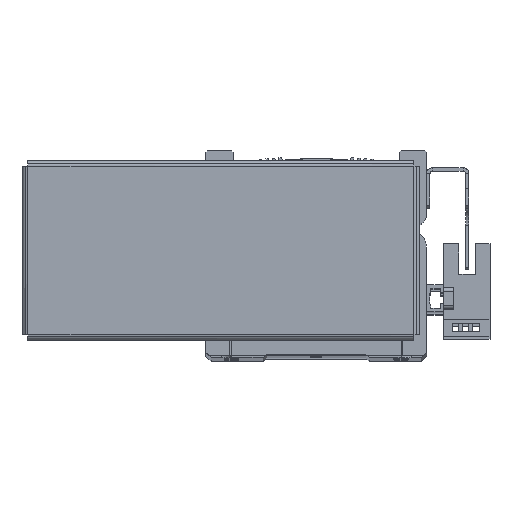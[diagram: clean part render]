
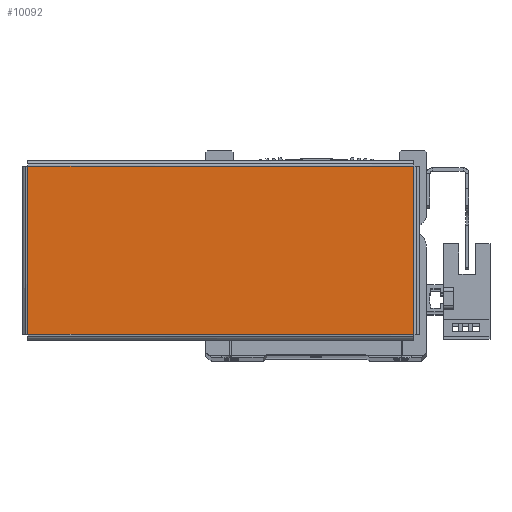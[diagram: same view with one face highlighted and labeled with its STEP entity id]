
A CAD part, top view. The second image highlights one B-rep face of the part: STEP entity #10092.
In plain terms, the highlighted planar face has unit normal (0, 0, 1) as drawn and (0, 0, -1) by its records, which use the part's own axes.
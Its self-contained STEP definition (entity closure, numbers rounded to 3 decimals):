
#3952 = AXIS2_PLACEMENT_3D ( 'NONE', #5464, #5465, #5477 ) ;
#5464 = CARTESIAN_POINT ( 'NONE',  ( 0., 0., -1. ) ) ;
#5465 = DIRECTION ( 'NONE',  ( 0., 0., 1. ) ) ;
#5475 = PLANE ( 'NONE',  #3952 ) ;
#5477 = DIRECTION ( 'NONE',  ( 1., 0., 0. ) ) ;
#10092 = ADVANCED_FACE ( 'NONE', ( #19901 ), #5475, .F. ) ;
#12429 = VERTEX_POINT ( 'NONE', #22635 ) ;
#12474 = VERTEX_POINT ( 'NONE', #22607 ) ;
#12539 = VERTEX_POINT ( 'NONE', #22691 ) ;
#12546 = VERTEX_POINT ( 'NONE', #22682 ) ;
#12711 = EDGE_LOOP ( 'NONE', ( #14493, #14580, #14477, #14514 ) ) ;
#14477 = ORIENTED_EDGE ( 'NONE', *, *, #28727, .T. ) ;
#14493 = ORIENTED_EDGE ( 'NONE', *, *, #28734, .T. ) ;
#14514 = ORIENTED_EDGE ( 'NONE', *, *, #28649, .T. ) ;
#14580 = ORIENTED_EDGE ( 'NONE', *, *, #28739, .T. ) ;
#19901 = FACE_OUTER_BOUND ( 'NONE', #12711, .T. ) ;
#22607 = CARTESIAN_POINT ( 'NONE',  ( -56.863, -24.763, -1. ) ) ;
#22635 = CARTESIAN_POINT ( 'NONE',  ( 56.863, 24.763, -1. ) ) ;
#22682 = CARTESIAN_POINT ( 'NONE',  ( -56.863, 24.763, -1. ) ) ;
#22691 = CARTESIAN_POINT ( 'NONE',  ( 56.863, -24.763, -1. ) ) ;
#28649 = EDGE_CURVE ( 'NONE', #12546, #12429, #34279, .T. ) ;
#28727 = EDGE_CURVE ( 'NONE', #12474, #12546, #34331, .T. ) ;
#28734 = EDGE_CURVE ( 'NONE', #12429, #12539, #34341, .T. ) ;
#28739 = EDGE_CURVE ( 'NONE', #12539, #12474, #34350, .T. ) ;
#34279 = LINE ( 'NONE', #35775, #34292 ) ;
#34292 = VECTOR ( 'NONE', #35811, 1000. ) ;
#34331 = LINE ( 'NONE', #35957, #34356 ) ;
#34341 = LINE ( 'NONE', #35959, #34342 ) ;
#34342 = VECTOR ( 'NONE', #35961, 1000. ) ;
#34345 = VECTOR ( 'NONE', #36011, 1000. ) ;
#34350 = LINE ( 'NONE', #36029, #34345 ) ;
#34356 = VECTOR ( 'NONE', #35993, 1000. ) ;
#35775 = CARTESIAN_POINT ( 'NONE',  ( -56.893, 24.763, -1. ) ) ;
#35811 = DIRECTION ( 'NONE',  ( 1., 0., 0. ) ) ;
#35957 = CARTESIAN_POINT ( 'NONE',  ( -56.863, -24.793, -1. ) ) ;
#35959 = CARTESIAN_POINT ( 'NONE',  ( 56.863, 24.793, -1. ) ) ;
#35961 = DIRECTION ( 'NONE',  ( 0., -1., 0. ) ) ;
#35993 = DIRECTION ( 'NONE',  ( 0., 1., 0. ) ) ;
#36011 = DIRECTION ( 'NONE',  ( -1., 0., 0. ) ) ;
#36029 = CARTESIAN_POINT ( 'NONE',  ( 56.893, -24.763, -1. ) ) ;
